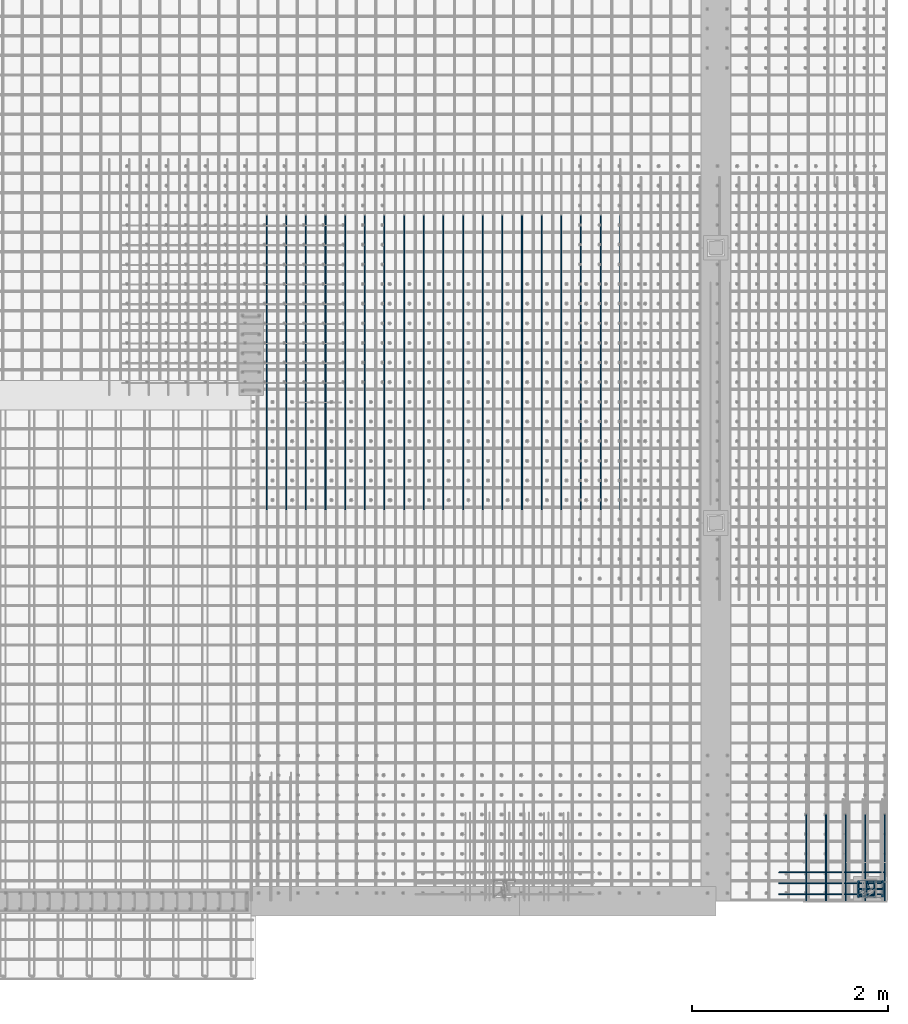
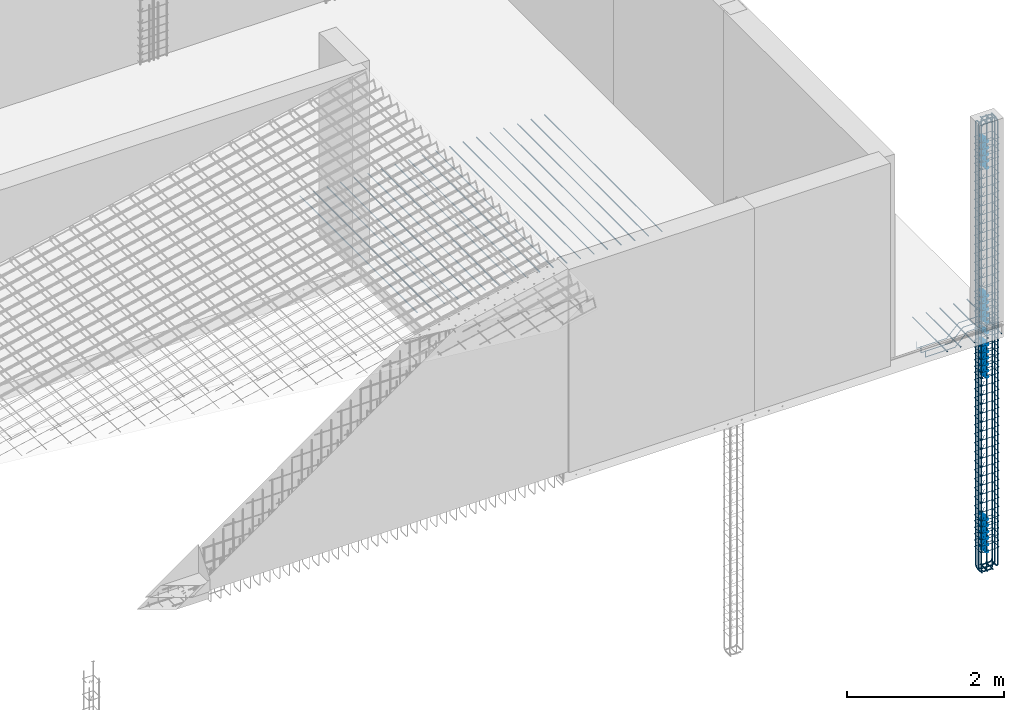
# One storey, part 10 of 17: 8 reinforcing bars.
"""IFC4 building model written with IfcOpenShell, lengths in metres."""

from ifc_helpers import new_model, entity, si_unit, frame, origin_with_axes, place, context, project, spatial, source, transform, mapped, element, save


model = new_model("IFC4")

# Units and contexts
model_context = context("Model", 3, precision=1e-05, world=origin_with_axes())
ifc_project = project(units=[si_unit("LENGTHUNIT", "METRE"), si_unit("AREAUNIT", "SQUARE_METRE"), si_unit("VOLUMEUNIT", "CUBIC_METRE"), si_unit("MASSUNIT", "GRAM", prefix="KILO"), si_unit("TIMEUNIT", "SECOND"), si_unit("PLANEANGLEUNIT", "RADIAN"), si_unit("SOLIDANGLEUNIT", "STERADIAN"), si_unit("THERMODYNAMICTEMPERATUREUNIT", "DEGREE_CELSIUS")], contexts=[model_context])

# Site, building, storey
placement_1 = place(None, origin_with_axes())
site = spatial("IfcSite", under=ifc_project, at=placement_1, Name="Italia", CompositionType="ELEMENT")
building = spatial("IfcBuilding", under=site, at=placement_1, Name="Abitazione", CompositionType="ELEMENT")
storey_placement = place(None, frame((0.0, 0.0, 3.569999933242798), z_axis=(0.0, 0.0, 1.0), x_axis=(1.0, 0.0, 0.0)))
storey = spatial("IfcBuildingStorey", under=building, at=storey_placement, Name="Storey 1", CompositionType="ELEMENT", Elevation=3.569999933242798)

# Reinforcing bars
shared_shape_1 = source(origin_with_axes(), model_context, "Body", "AdvancedSweptSolid", [
    entity("IfcSweptDiskSolid", entity("IfcIndexedPolyCurve", entity("IfcCartesianPointList3D", [[14.476, 0.844, -0.265], [14.364, 0.844, -0.265], [14.3449, 0.844, -0.261194], [14.3286, 0.844, -0.250355], [14.3178, 0.844, -0.234134], [14.314, 0.844, -0.215], [14.314, 0.844, 0.8175]]), [entity("IfcLineIndex", [1, 2]), entity("IfcLineIndex", [2, 3]), entity("IfcLineIndex", [3, 4]), entity("IfcLineIndex", [4, 5]), entity("IfcLineIndex", [5, 6]), entity("IfcLineIndex", [6, 7])], False), 0.01),
])
placement_2 = place(placement_1, origin_with_axes())
reinforcing_bar_1_placement = place(placement_2, origin_with_axes())
element("IfcReinforcingBar", 1, at=reinforcing_bar_1_placement, inside=storey, BarLength=1.22254, CrossSectionArea=0.00031416, NominalDiameter=0.02, context=model_context, shape_type="MappedRepresentation", body=[
    mapped(shared_shape_1, transform((15.3193, -13.47, 0.0), x_axis=(0.0, 1.0, 0.0), y_axis=(-1.0, 0.0, 0.0), z_axis=(0.0, 0.0, 1.0), scale=1.0)),
    mapped(shared_shape_1, transform((0.0, 0.0, 0.0), x_axis=(1.0, 0.0, 0.0), y_axis=(0.0, 1.0, 0.0), z_axis=(0.0, 0.0, 1.0), scale=1.0)),
    mapped(shared_shape_1, transform((13.6313, 15.3, 0.0), x_axis=(0.0, -1.0, 0.0), y_axis=(1.0, 0.0, 0.0), z_axis=(0.0, 0.0, 1.0), scale=1.0)),
    mapped(shared_shape_1, transform((28.87, 1.75901, 0.0), x_axis=(-1.0, 0.0, 0.0), y_axis=(0.0, -1.0, 0.0), z_axis=(0.0, 0.0, 1.0), scale=1.0)),
    mapped(shared_shape_1, transform((13.47, 15.3, 0.0), x_axis=(0.0, -1.0, 0.0), y_axis=(1.0, 0.0, 0.0), z_axis=(0.0, 0.0, 1.0), scale=1.0)),
    mapped(shared_shape_1, transform((13.5507, 15.3, 0.0), x_axis=(0.0, -1.0, 0.0), y_axis=(1.0, 0.0, 0.0), z_axis=(0.0, 0.0, 1.0), scale=1.0)),
    mapped(shared_shape_1, transform((28.87, 1.83001, 0.0), x_axis=(-1.0, 0.0, 0.0), y_axis=(0.0, -1.0, 0.0), z_axis=(0.0, 0.0, 1.0), scale=1.0)),
    mapped(shared_shape_1, transform((15.2387, -13.47, 0.0), x_axis=(0.0, 1.0, 0.0), y_axis=(-1.0, 0.0, 0.0), z_axis=(0.0, 0.0, 1.0), scale=1.0)),
    mapped(shared_shape_1, transform((0.0, 0.0709922, 0.0), x_axis=(1.0, 0.0, 0.0), y_axis=(0.0, 1.0, 0.0), z_axis=(0.0, 0.0, 1.0), scale=1.0)),
    mapped(shared_shape_1, transform((15.4, -13.47, 0.0), x_axis=(0.0, 1.0, 0.0), y_axis=(-1.0, 0.0, 0.0), z_axis=(0.0, 0.0, 1.0), scale=1.0)),
])
shared_shape_2 = source(origin_with_axes(), model_context, "Body", "AdvancedSweptSolid", [
    entity("IfcSweptDiskSolid", entity("IfcIndexedPolyCurve", entity("IfcCartesianPointList3D", [[14.314, 0.844, 0.0], [14.314, 0.844, 4.37]]), [entity("IfcLineIndex", [1, 2])], False), 0.01),
])
reinforcing_bar_2_placement = place(placement_2, origin_with_axes())
element("IfcReinforcingBar", 2, at=reinforcing_bar_2_placement, inside=storey, BarLength=4.37, CrossSectionArea=0.00031416, NominalDiameter=0.02, context=model_context, shape_type="MappedRepresentation", body=[
    mapped(shared_shape_2, transform((0.161341, 0.142, 0.0), x_axis=(1.0, 0.0, 0.0), y_axis=(0.0, 1.0, 0.0), z_axis=(0.0, 0.0, 1.0), scale=1.0)),
    mapped(shared_shape_2, transform((0.0806713, 0.142, 0.0), x_axis=(1.0, 0.0, 0.0), y_axis=(0.0, 1.0, 0.0), z_axis=(0.0, 0.0, 1.0), scale=1.0)),
    mapped(shared_shape_2, transform((0.161331, 0.0, 0.0), x_axis=(1.0, 0.0, 0.0), y_axis=(0.0, 1.0, 0.0), z_axis=(0.0, 0.0, 1.0), scale=1.0)),
    mapped(shared_shape_2, transform((0.242002, 0.071, 0.0), x_axis=(1.0, 0.0, 0.0), y_axis=(0.0, 1.0, 0.0), z_axis=(0.0, 0.0, 1.0), scale=1.0)),
    mapped(shared_shape_2, transform((0.0, 0.0, 0.0), x_axis=(1.0, 0.0, 0.0), y_axis=(0.0, 1.0, 0.0), z_axis=(0.0, 0.0, 1.0), scale=1.0)),
    mapped(shared_shape_2, transform((0.0806618, 0.0, 0.0), x_axis=(1.0, 0.0, 0.0), y_axis=(0.0, 1.0, 0.0), z_axis=(0.0, 0.0, 1.0), scale=1.0)),
    mapped(shared_shape_2, transform((0.242002, 0.142, 0.0), x_axis=(1.0, 0.0, 0.0), y_axis=(0.0, 1.0, 0.0), z_axis=(0.0, 0.0, 1.0), scale=1.0)),
    mapped(shared_shape_2, transform((0.0, 0.142, 0.0), x_axis=(1.0, 0.0, 0.0), y_axis=(0.0, 1.0, 0.0), z_axis=(0.0, 0.0, 1.0), scale=1.0)),
    mapped(shared_shape_2, transform((0.0, 0.071, 0.0), x_axis=(1.0, 0.0, 0.0), y_axis=(0.0, 1.0, 0.0), z_axis=(0.0, 0.0, 1.0), scale=1.0)),
    mapped(shared_shape_2, transform((0.242002, 0.0, 0.0), x_axis=(1.0, 0.0, 0.0), y_axis=(0.0, 1.0, 0.0), z_axis=(0.0, 0.0, 1.0), scale=1.0)),
])
shared_shape_3 = source(origin_with_axes(), model_context, "Body", "AdvancedSweptSolid", [
    entity("IfcSweptDiskSolid", entity("IfcIndexedPolyCurve", entity("IfcCartesianPointList3D", [[14.314, 0.844, 3.57], [14.314, 0.844, 6.645], [14.3178, 0.844, 6.66413], [14.3286, 0.844, 6.68036], [14.3449, 0.844, 6.69119], [14.364, 0.844, 6.695], [14.476, 0.844, 6.695]]), [entity("IfcLineIndex", [1, 2]), entity("IfcLineIndex", [2, 3]), entity("IfcLineIndex", [3, 4]), entity("IfcLineIndex", [4, 5]), entity("IfcLineIndex", [5, 6]), entity("IfcLineIndex", [6, 7])], False), 0.01),
])
reinforcing_bar_3_placement = place(placement_2, origin_with_axes())
element("IfcReinforcingBar", 3, at=reinforcing_bar_3_placement, inside=storey, BarLength=3.26504, CrossSectionArea=0.00031416, NominalDiameter=0.02, context=model_context, shape_type="MappedRepresentation", body=[
    mapped(shared_shape_3, transform((13.6313, 15.3, 0.0), x_axis=(0.0, -1.0, 0.0), y_axis=(1.0, 0.0, 0.0), z_axis=(0.0, 0.0, 1.0), scale=1.0)),
    mapped(shared_shape_3, transform((13.5507, 15.3, 0.0), x_axis=(0.0, -1.0, 0.0), y_axis=(1.0, 0.0, 0.0), z_axis=(0.0, 0.0, 1.0), scale=1.0)),
    mapped(shared_shape_3, transform((15.3193, -13.47, 0.0), x_axis=(0.0, 1.0, 0.0), y_axis=(-1.0, 0.0, 0.0), z_axis=(0.0, 0.0, 1.0), scale=1.0)),
    mapped(shared_shape_3, transform((28.87, 1.75901, 0.0), x_axis=(-1.0, 0.0, 0.0), y_axis=(0.0, -1.0, 0.0), z_axis=(0.0, 0.0, 1.0), scale=1.0)),
    mapped(shared_shape_3, transform((0.0, 0.0, 0.0), x_axis=(1.0, 0.0, 0.0), y_axis=(0.0, 1.0, 0.0), z_axis=(0.0, 0.0, 1.0), scale=1.0)),
    mapped(shared_shape_3, transform((15.2387, -13.47, 0.0), x_axis=(0.0, 1.0, 0.0), y_axis=(-1.0, 0.0, 0.0), z_axis=(0.0, 0.0, 1.0), scale=1.0)),
    mapped(shared_shape_3, transform((28.87, 1.83001, 0.0), x_axis=(-1.0, 0.0, 0.0), y_axis=(0.0, -1.0, 0.0), z_axis=(0.0, 0.0, 1.0), scale=1.0)),
    mapped(shared_shape_3, transform((13.47, 15.3, 0.0), x_axis=(0.0, -1.0, 0.0), y_axis=(1.0, 0.0, 0.0), z_axis=(0.0, 0.0, 1.0), scale=1.0)),
    mapped(shared_shape_3, transform((0.0, 0.0709947, 0.0), x_axis=(1.0, 0.0, 0.0), y_axis=(0.0, 1.0, 0.0), z_axis=(0.0, 0.0, 1.0), scale=1.0)),
    mapped(shared_shape_3, transform((15.4, -13.47, 0.0), x_axis=(0.0, 1.0, 0.0), y_axis=(-1.0, 0.0, 0.0), z_axis=(0.0, 0.0, 1.0), scale=1.0)),
])
shared_shape_4 = source(origin_with_axes(), model_context, "Body", "AdvancedSweptSolid", [
    entity("IfcSweptDiskSolid", entity("IfcIndexedPolyCurve", entity("IfcCartesianPointList3D", [[14.425, 0.905698, 0.031], [14.4076, 0.993999, 0.031], [14.4061, 0.997606, 0.031], [14.4034, 1.00037, 0.031], [14.3998, 1.00187, 0.031], [14.3959, 1.00188, 0.031], [14.388, 1.00033, 0.031], [14.3844, 0.998842, 0.031], [14.3817, 0.996088, 0.031], [14.3802, 0.992486, 0.031], [14.3802, 0.988584, 0.031], [14.4092, 0.841416, 0.031], [14.4092, 0.837514, 0.031], [14.4077, 0.833912, 0.031], [14.4049, 0.831158, 0.031], [14.4013, 0.829671, 0.031], [14.3934, 0.828124, 0.031], [14.3895, 0.82813, 0.031], [14.3859, 0.82963, 0.031], [14.3832, 0.832394, 0.031], [14.3817, 0.836001, 0.031], [14.3643, 0.924302, 0.031]]), [entity("IfcLineIndex", [1, 2]), entity("IfcLineIndex", [2, 3]), entity("IfcLineIndex", [3, 4]), entity("IfcLineIndex", [4, 5]), entity("IfcLineIndex", [5, 6]), entity("IfcLineIndex", [6, 7]), entity("IfcLineIndex", [7, 8]), entity("IfcLineIndex", [8, 9]), entity("IfcLineIndex", [9, 10]), entity("IfcLineIndex", [10, 11]), entity("IfcLineIndex", [11, 12]), entity("IfcLineIndex", [12, 13]), entity("IfcLineIndex", [13, 14]), entity("IfcLineIndex", [14, 15]), entity("IfcLineIndex", [15, 16]), entity("IfcLineIndex", [16, 17]), entity("IfcLineIndex", [17, 18]), entity("IfcLineIndex", [18, 19]), entity("IfcLineIndex", [19, 20]), entity("IfcLineIndex", [20, 21]), entity("IfcLineIndex", [21, 22])], False), 0.004),
])
reinforcing_bar_4_placement = place(placement_2, origin_with_axes())
element("IfcReinforcingBar", 4, at=reinforcing_bar_4_placement, inside=storey, BarLength=0.408429, CrossSectionArea=5.0265e-05, NominalDiameter=0.008, context=model_context, shape_type="MappedRepresentation", body=[
    mapped(shared_shape_4, transform((0.0, 0.0, 3.01), x_axis=(1.0, 0.0, 0.0), y_axis=(0.0, 1.0, 0.0), z_axis=(0.0, 0.0, 1.0), scale=1.0)),
    mapped(shared_shape_4, transform((0.0, 0.0, 3.11), x_axis=(1.0, 0.0, 0.0), y_axis=(0.0, 1.0, 0.0), z_axis=(0.0, 0.0, 1.0), scale=1.0)),
    mapped(shared_shape_4, transform((0.0, 0.0, 0.0), x_axis=(1.0, 0.0, 0.0), y_axis=(0.0, 1.0, 0.0), z_axis=(0.0, 0.0, 1.0), scale=1.0)),
    mapped(shared_shape_4, transform((0.0, 0.0, 2.81), x_axis=(1.0, 0.0, 0.0), y_axis=(0.0, 1.0, 0.0), z_axis=(0.0, 0.0, 1.0), scale=1.0)),
    mapped(shared_shape_4, transform((0.0, 0.0, 2.91), x_axis=(1.0, 0.0, 0.0), y_axis=(0.0, 1.0, 0.0), z_axis=(0.0, 0.0, 1.0), scale=1.0)),
    mapped(shared_shape_4, transform((0.0, 0.0, 0.408), x_axis=(1.0, 0.0, 0.0), y_axis=(0.0, 1.0, 0.0), z_axis=(0.0, 0.0, 1.0), scale=1.0)),
    mapped(shared_shape_4, transform((0.0, 0.0, 0.5), x_axis=(1.0, 0.0, 0.0), y_axis=(0.0, 1.0, 0.0), z_axis=(0.0, 0.0, 1.0), scale=1.0)),
    mapped(shared_shape_4, transform((0.0, 0.0, 2.718), x_axis=(1.0, 0.0, 0.0), y_axis=(0.0, 1.0, 0.0), z_axis=(0.0, 0.0, 1.0), scale=1.0)),
    mapped(shared_shape_4, transform((0.0, 0.0, 0.208), x_axis=(1.0, 0.0, 0.0), y_axis=(0.0, 1.0, 0.0), z_axis=(0.0, 0.0, 1.0), scale=1.0)),
    mapped(shared_shape_4, transform((0.0, 0.0, 0.308), x_axis=(1.0, 0.0, 0.0), y_axis=(0.0, 1.0, 0.0), z_axis=(0.0, 0.0, 1.0), scale=1.0)),
    mapped(shared_shape_4, transform((0.0, 0.0, 6.278), x_axis=(1.0, 0.0, 0.0), y_axis=(0.0, 1.0, 0.0), z_axis=(0.0, 0.0, 1.0), scale=1.0)),
    mapped(shared_shape_4, transform((0.0, 0.0, 3.218), x_axis=(1.0, 0.0, 0.0), y_axis=(0.0, 1.0, 0.0), z_axis=(0.0, 0.0, 1.0), scale=1.0)),
    mapped(shared_shape_4, transform((0.0, 0.0, 0.108), x_axis=(1.0, 0.0, 0.0), y_axis=(0.0, 1.0, 0.0), z_axis=(0.0, 0.0, 1.0), scale=1.0)),
    mapped(shared_shape_4, transform((0.0, 0.0, 6.078), x_axis=(1.0, 0.0, 0.0), y_axis=(0.0, 1.0, 0.0), z_axis=(0.0, 0.0, 1.0), scale=1.0)),
    mapped(shared_shape_4, transform((0.0, 0.0, 6.178), x_axis=(1.0, 0.0, 0.0), y_axis=(0.0, 1.0, 0.0), z_axis=(0.0, 0.0, 1.0), scale=1.0)),
    mapped(shared_shape_4, transform((0.0, 0.0, 3.878), x_axis=(1.0, 0.0, 0.0), y_axis=(0.0, 1.0, 0.0), z_axis=(0.0, 0.0, 1.0), scale=1.0)),
    mapped(shared_shape_4, transform((0.0, 0.0, 3.978), x_axis=(1.0, 0.0, 0.0), y_axis=(0.0, 1.0, 0.0), z_axis=(0.0, 0.0, 1.0), scale=1.0)),
    mapped(shared_shape_4, transform((0.0, 0.0, 5.97), x_axis=(1.0, 0.0, 0.0), y_axis=(0.0, 1.0, 0.0), z_axis=(0.0, 0.0, 1.0), scale=1.0)),
    mapped(shared_shape_4, transform((0.0, 0.0, 3.67), x_axis=(1.0, 0.0, 0.0), y_axis=(0.0, 1.0, 0.0), z_axis=(0.0, 0.0, 1.0), scale=1.0)),
    mapped(shared_shape_4, transform((0.0, 0.0, 3.77), x_axis=(1.0, 0.0, 0.0), y_axis=(0.0, 1.0, 0.0), z_axis=(0.0, 0.0, 1.0), scale=1.0)),
    mapped(shared_shape_4, transform((0.0, 0.0, 6.378), x_axis=(1.0, 0.0, 0.0), y_axis=(0.0, 1.0, 0.0), z_axis=(0.0, 0.0, 1.0), scale=1.0)),
    mapped(shared_shape_4, transform((0.0, 0.0, 3.406), x_axis=(1.0, 0.0, 0.0), y_axis=(0.0, 1.0, 0.0), z_axis=(0.0, 0.0, 1.0), scale=1.0)),
    mapped(shared_shape_4, transform((0.0, 0.0, 3.57), x_axis=(1.0, 0.0, 0.0), y_axis=(0.0, 1.0, 0.0), z_axis=(0.0, 0.0, 1.0), scale=1.0)),
])
shared_shape_5 = source(origin_with_axes(), model_context, "Body", "AdvancedSweptSolid", [
    entity("IfcSweptDiskSolid", entity("IfcIndexedPolyCurve", entity("IfcCartesianPointList3D", [[14.3917, 0.900711, 0.051], [14.3239, 0.832929, 0.05014], [14.3169, 0.83, 0.0500714], [14.31, 0.83, 0.0500099], [14.3062, 0.830761, 0.0499749], [14.3029, 0.832929, 0.0499398], [14.3008, 0.836173, 0.0499048], [14.3, 0.84, 0.0498698], [14.3, 0.99, 0.0485242], [14.3008, 0.993827, 0.0484892], [14.3029, 0.997071, 0.0484542], [14.3062, 0.999239, 0.0484192], [14.31, 1.0, 0.0483842], [14.56, 1.0, 0.0461414], [14.5638, 0.999239, 0.0461064], [14.5671, 0.997071, 0.0460714], [14.5692, 0.993827, 0.0460364], [14.57, 0.99, 0.0460014], [14.57, 0.84, 0.0446557], [14.5692, 0.836173, 0.0446207], [14.5671, 0.832929, 0.0445857], [14.5638, 0.830761, 0.0445507], [14.56, 0.83, 0.0445157], [14.31, 0.83, 0.0422729], [14.3062, 0.830761, 0.0422379], [14.3029, 0.832929, 0.0422029], [14.3008, 0.836173, 0.0421679], [14.3, 0.84, 0.0421329], [14.3, 0.846858, 0.0420714], [14.3029, 0.853929, 0.0420027], [14.3707, 0.921711, 0.0411428]]), [entity("IfcLineIndex", [1, 2]), entity("IfcLineIndex", [2, 3]), entity("IfcLineIndex", [3, 4]), entity("IfcLineIndex", [4, 5]), entity("IfcLineIndex", [5, 6]), entity("IfcLineIndex", [6, 7]), entity("IfcLineIndex", [7, 8]), entity("IfcLineIndex", [8, 9]), entity("IfcLineIndex", [9, 10]), entity("IfcLineIndex", [10, 11]), entity("IfcLineIndex", [11, 12]), entity("IfcLineIndex", [12, 13]), entity("IfcLineIndex", [13, 14]), entity("IfcLineIndex", [14, 15]), entity("IfcLineIndex", [15, 16]), entity("IfcLineIndex", [16, 17]), entity("IfcLineIndex", [17, 18]), entity("IfcLineIndex", [18, 19]), entity("IfcLineIndex", [19, 20]), entity("IfcLineIndex", [20, 21]), entity("IfcLineIndex", [21, 22]), entity("IfcLineIndex", [22, 23]), entity("IfcLineIndex", [23, 24]), entity("IfcLineIndex", [24, 25]), entity("IfcLineIndex", [25, 26]), entity("IfcLineIndex", [26, 27]), entity("IfcLineIndex", [27, 28]), entity("IfcLineIndex", [28, 29]), entity("IfcLineIndex", [29, 30]), entity("IfcLineIndex", [30, 31])], False), 0.004),
])
reinforcing_bar_5_placement = place(placement_2, origin_with_axes())
element("IfcReinforcingBar", 5, at=reinforcing_bar_5_placement, inside=storey, BarLength=1.09882, CrossSectionArea=5.0265e-05, NominalDiameter=0.008, context=model_context, shape_type="MappedRepresentation", body=[
    mapped(shared_shape_5, transform((0.0, 0.0, 3.39799), x_axis=(1.0, 0.0, 0.0), y_axis=(0.0, 1.0, 0.0), z_axis=(0.0, 0.0, 1.0), scale=1.0)),
    mapped(shared_shape_5, transform((0.0, 0.0, 3.20999), x_axis=(1.0, 0.0, 0.0), y_axis=(0.0, 1.0, 0.0), z_axis=(0.0, 0.0, 1.0), scale=1.0)),
    mapped(shared_shape_5, transform((0.0, 0.0, 6.37002), x_axis=(1.0, 0.0, 0.0), y_axis=(0.0, 1.0, 0.0), z_axis=(0.0, 0.0, 1.0), scale=1.0)),
    mapped(shared_shape_5, transform((0.0, 0.0, 4.55802), x_axis=(1.0, 0.0, 0.0), y_axis=(0.0, 1.0, 0.0), z_axis=(0.0, 0.0, 1.0), scale=1.0)),
    mapped(shared_shape_5, transform((0.0, 0.0, 4.41802), x_axis=(1.0, 0.0, 0.0), y_axis=(0.0, 1.0, 0.0), z_axis=(0.0, 0.0, 1.0), scale=1.0)),
    mapped(shared_shape_5, transform((0.0, 0.0, 4.27802), x_axis=(1.0, 0.0, 0.0), y_axis=(0.0, 1.0, 0.0), z_axis=(0.0, 0.0, 1.0), scale=1.0)),
    mapped(shared_shape_5, transform((0.0, 0.0, 4.13802), x_axis=(1.0, 0.0, 0.0), y_axis=(0.0, 1.0, 0.0), z_axis=(0.0, 0.0, 1.0), scale=1.0)),
    mapped(shared_shape_5, transform((0.0, 0.0, 3.97002), x_axis=(1.0, 0.0, 0.0), y_axis=(0.0, 1.0, 0.0), z_axis=(0.0, 0.0, 1.0), scale=1.0)),
    mapped(shared_shape_5, transform((0.0, 0.0, 3.86999), x_axis=(1.0, 0.0, 0.0), y_axis=(0.0, 1.0, 0.0), z_axis=(0.0, 0.0, 1.0), scale=1.0)),
    mapped(shared_shape_5, transform((0.0, 0.0, 3.76199), x_axis=(1.0, 0.0, 0.0), y_axis=(0.0, 1.0, 0.0), z_axis=(0.0, 0.0, 1.0), scale=1.0)),
    mapped(shared_shape_5, transform((0.0, 0.0, 3.66199), x_axis=(1.0, 0.0, 0.0), y_axis=(0.0, 1.0, 0.0), z_axis=(0.0, 0.0, 1.0), scale=1.0)),
    mapped(shared_shape_5, transform((0.0, 0.0, 3.56199), x_axis=(1.0, 0.0, 0.0), y_axis=(0.0, 1.0, 0.0), z_axis=(0.0, 0.0, 1.0), scale=1.0)),
    mapped(shared_shape_5, transform((0.0, 0.0, 4.97802), x_axis=(1.0, 0.0, 0.0), y_axis=(0.0, 1.0, 0.0), z_axis=(0.0, 0.0, 1.0), scale=1.0)),
    mapped(shared_shape_5, transform((0.0, 0.0, 4.83802), x_axis=(1.0, 0.0, 0.0), y_axis=(0.0, 1.0, 0.0), z_axis=(0.0, 0.0, 1.0), scale=1.0)),
    mapped(shared_shape_5, transform((0.0, 0.0, 4.69802), x_axis=(1.0, 0.0, 0.0), y_axis=(0.0, 1.0, 0.0), z_axis=(0.0, 0.0, 1.0), scale=1.0)),
    mapped(shared_shape_5, transform((0.0, 0.0, 6.17002), x_axis=(1.0, 0.0, 0.0), y_axis=(0.0, 1.0, 0.0), z_axis=(0.0, 0.0, 1.0), scale=1.0)),
    mapped(shared_shape_5, transform((0.0, 0.0, 6.07002), x_axis=(1.0, 0.0, 0.0), y_axis=(0.0, 1.0, 0.0), z_axis=(0.0, 0.0, 1.0), scale=1.0)),
    mapped(shared_shape_5, transform((0.0, 0.0, 5.96202), x_axis=(1.0, 0.0, 0.0), y_axis=(0.0, 1.0, 0.0), z_axis=(0.0, 0.0, 1.0), scale=1.0)),
    mapped(shared_shape_5, transform((0.0, 0.0, 5.81802), x_axis=(1.0, 0.0, 0.0), y_axis=(0.0, 1.0, 0.0), z_axis=(0.0, 0.0, 1.0), scale=1.0)),
    mapped(shared_shape_5, transform((0.0, 0.0, 5.67802), x_axis=(1.0, 0.0, 0.0), y_axis=(0.0, 1.0, 0.0), z_axis=(0.0, 0.0, 1.0), scale=1.0)),
    mapped(shared_shape_5, transform((0.0, 0.0, 5.53802), x_axis=(1.0, 0.0, 0.0), y_axis=(0.0, 1.0, 0.0), z_axis=(0.0, 0.0, 1.0), scale=1.0)),
    mapped(shared_shape_5, transform((0.0, 0.0, 5.39802), x_axis=(1.0, 0.0, 0.0), y_axis=(0.0, 1.0, 0.0), z_axis=(0.0, 0.0, 1.0), scale=1.0)),
    mapped(shared_shape_5, transform((0.0, 0.0, 5.25802), x_axis=(1.0, 0.0, 0.0), y_axis=(0.0, 1.0, 0.0), z_axis=(0.0, 0.0, 1.0), scale=1.0)),
    mapped(shared_shape_5, transform((0.0, 0.0, 5.11802), x_axis=(1.0, 0.0, 0.0), y_axis=(0.0, 1.0, 0.0), z_axis=(0.0, 0.0, 1.0), scale=1.0)),
    mapped(shared_shape_5, transform((0.0, 0.0, 0.0999863), x_axis=(1.0, 0.0, 0.0), y_axis=(0.0, 1.0, 0.0), z_axis=(0.0, 0.0, 1.0), scale=1.0)),
    mapped(shared_shape_5, transform((0.0, 0.0, 3.10199), x_axis=(1.0, 0.0, 0.0), y_axis=(0.0, 1.0, 0.0), z_axis=(0.0, 0.0, 1.0), scale=1.0)),
    mapped(shared_shape_5, transform((0.0, 0.0, 6.27002), x_axis=(1.0, 0.0, 0.0), y_axis=(0.0, 1.0, 0.0), z_axis=(0.0, 0.0, 1.0), scale=1.0)),
    mapped(shared_shape_5, transform((0.0, 0.0, 1.19298), x_axis=(1.0, 0.0, 0.0), y_axis=(0.0, 1.0, 0.0), z_axis=(0.0, 0.0, 1.0), scale=1.0)),
    mapped(shared_shape_5, transform((0.0, 0.0, 1.05298), x_axis=(1.0, 0.0, 0.0), y_axis=(0.0, 1.0, 0.0), z_axis=(0.0, 0.0, 1.0), scale=1.0)),
    mapped(shared_shape_5, transform((0.0, 0.0, 0.912992), x_axis=(1.0, 0.0, 0.0), y_axis=(0.0, 1.0, 0.0), z_axis=(0.0, 0.0, 1.0), scale=1.0)),
    mapped(shared_shape_5, transform((0.0, 0.0, 0.772992), x_axis=(1.0, 0.0, 0.0), y_axis=(0.0, 1.0, 0.0), z_axis=(0.0, 0.0, 1.0), scale=1.0)),
    mapped(shared_shape_5, transform((0.0, 0.0, 0.632992), x_axis=(1.0, 0.0, 0.0), y_axis=(0.0, 1.0, 0.0), z_axis=(0.0, 0.0, 1.0), scale=1.0)),
    mapped(shared_shape_5, transform((0.0, 0.0, 0.49199), x_axis=(1.0, 0.0, 0.0), y_axis=(0.0, 1.0, 0.0), z_axis=(0.0, 0.0, 1.0), scale=1.0)),
    mapped(shared_shape_5, transform((0.0, 0.0, 0.399986), x_axis=(1.0, 0.0, 0.0), y_axis=(0.0, 1.0, 0.0), z_axis=(0.0, 0.0, 1.0), scale=1.0)),
    mapped(shared_shape_5, transform((0.0, 0.0, 0.299986), x_axis=(1.0, 0.0, 0.0), y_axis=(0.0, 1.0, 0.0), z_axis=(0.0, 0.0, 1.0), scale=1.0)),
    mapped(shared_shape_5, transform((0.0, 0.0, 0.19999), x_axis=(1.0, 0.0, 0.0), y_axis=(0.0, 1.0, 0.0), z_axis=(0.0, 0.0, 1.0), scale=1.0)),
    mapped(shared_shape_5, transform((0.0, 0.0, 1.61298), x_axis=(1.0, 0.0, 0.0), y_axis=(0.0, 1.0, 0.0), z_axis=(0.0, 0.0, 1.0), scale=1.0)),
    mapped(shared_shape_5, transform((0.0, 0.0, 1.47298), x_axis=(1.0, 0.0, 0.0), y_axis=(0.0, 1.0, 0.0), z_axis=(0.0, 0.0, 1.0), scale=1.0)),
    mapped(shared_shape_5, transform((0.0, 0.0, 1.33298), x_axis=(1.0, 0.0, 0.0), y_axis=(0.0, 1.0, 0.0), z_axis=(0.0, 0.0, 1.0), scale=1.0)),
    mapped(shared_shape_5, transform((0.0, 0.0, 2.80199), x_axis=(1.0, 0.0, 0.0), y_axis=(0.0, 1.0, 0.0), z_axis=(0.0, 0.0, 1.0), scale=1.0)),
    mapped(shared_shape_5, transform((0.0, 0.0, 2.70999), x_axis=(1.0, 0.0, 0.0), y_axis=(0.0, 1.0, 0.0), z_axis=(0.0, 0.0, 1.0), scale=1.0)),
    mapped(shared_shape_5, transform((0.0, 0.0, 2.59299), x_axis=(1.0, 0.0, 0.0), y_axis=(0.0, 1.0, 0.0), z_axis=(0.0, 0.0, 1.0), scale=1.0)),
    mapped(shared_shape_5, transform((0.0, 0.0, 2.45299), x_axis=(1.0, 0.0, 0.0), y_axis=(0.0, 1.0, 0.0), z_axis=(0.0, 0.0, 1.0), scale=1.0)),
    mapped(shared_shape_5, transform((0.0, 0.0, 2.31299), x_axis=(1.0, 0.0, 0.0), y_axis=(0.0, 1.0, 0.0), z_axis=(0.0, 0.0, 1.0), scale=1.0)),
    mapped(shared_shape_5, transform((0.0, 0.0, 2.17299), x_axis=(1.0, 0.0, 0.0), y_axis=(0.0, 1.0, 0.0), z_axis=(0.0, 0.0, 1.0), scale=1.0)),
    mapped(shared_shape_5, transform((0.0, 0.0, 2.03299), x_axis=(1.0, 0.0, 0.0), y_axis=(0.0, 1.0, 0.0), z_axis=(0.0, 0.0, 1.0), scale=1.0)),
    mapped(shared_shape_5, transform((0.0, 0.0, 1.89298), x_axis=(1.0, 0.0, 0.0), y_axis=(0.0, 1.0, 0.0), z_axis=(0.0, 0.0, 1.0), scale=1.0)),
    mapped(shared_shape_5, transform((0.0, 0.0, 1.75298), x_axis=(1.0, 0.0, 0.0), y_axis=(0.0, 1.0, 0.0), z_axis=(0.0, 0.0, 1.0), scale=1.0)),
    mapped(shared_shape_5, transform((0.0, 0.0, 0.0), x_axis=(1.0, 0.0, 0.0), y_axis=(0.0, 1.0, 0.0), z_axis=(0.0, 0.0, 1.0), scale=1.0)),
    mapped(shared_shape_5, transform((0.0, 0.0, 3.00199), x_axis=(1.0, 0.0, 0.0), y_axis=(0.0, 1.0, 0.0), z_axis=(0.0, 0.0, 1.0), scale=1.0)),
    mapped(shared_shape_5, transform((0.0, 0.0, 2.90199), x_axis=(1.0, 0.0, 0.0), y_axis=(0.0, 1.0, 0.0), z_axis=(0.0, 0.0, 1.0), scale=1.0)),
])
shared_shape_6 = source(origin_with_axes(), model_context, "Body", "AdvancedSweptSolid", [
    entity("IfcSweptDiskSolid", entity("IfcIndexedPolyCurve", entity("IfcCartesianPointList3D", [[8.28682, 4.77426, 3.5], [8.28682, 7.77017, 3.5]]), [entity("IfcLineIndex", [1, 2])], False), 0.008),
])
reinforcing_bar_6_placement = place(placement_2, origin_with_axes())
element("IfcReinforcingBar", 6, at=reinforcing_bar_6_placement, inside=storey, BarLength=2.99591, CrossSectionArea=0.00020106, NominalDiameter=0.016, context=model_context, shape_type="MappedRepresentation", body=[
    mapped(shared_shape_6, transform((1.4, 0.0, 0.0), x_axis=(1.0, 0.0, 0.0), y_axis=(0.0, 1.0, 0.0), z_axis=(0.0, 0.0, 1.0), scale=1.0)),
    mapped(shared_shape_6, transform((1.6, 0.0, 0.0), x_axis=(1.0, 0.0, 0.0), y_axis=(0.0, 1.0, 0.0), z_axis=(0.0, 0.0, 1.0), scale=1.0)),
    mapped(shared_shape_6, transform((0.0, 0.0, 0.0), x_axis=(1.0, 0.0, 0.0), y_axis=(0.0, 1.0, 0.0), z_axis=(0.0, 0.0, 1.0), scale=1.0)),
    mapped(shared_shape_6, transform((1.2, 0.0, 0.0), x_axis=(1.0, 0.0, 0.0), y_axis=(0.0, 1.0, 0.0), z_axis=(0.0, 0.0, 1.0), scale=1.0)),
    mapped(shared_shape_6, transform((0.599999, 0.0, 0.0), x_axis=(1.0, 0.0, 0.0), y_axis=(0.0, 1.0, 0.0), z_axis=(0.0, 0.0, 1.0), scale=1.0)),
    mapped(shared_shape_6, transform((0.799999, 0.0, 0.0), x_axis=(1.0, 0.0, 0.0), y_axis=(0.0, 1.0, 0.0), z_axis=(0.0, 0.0, 1.0), scale=1.0)),
    mapped(shared_shape_6, transform((0.999999, 0.0, 0.0), x_axis=(1.0, 0.0, 0.0), y_axis=(0.0, 1.0, 0.0), z_axis=(0.0, 0.0, 1.0), scale=1.0)),
    mapped(shared_shape_6, transform((0.4, 0.0, 0.0), x_axis=(1.0, 0.0, 0.0), y_axis=(0.0, 1.0, 0.0), z_axis=(0.0, 0.0, 1.0), scale=1.0)),
    mapped(shared_shape_6, transform((3.4, 0.0, 0.0), x_axis=(1.0, 0.0, 0.0), y_axis=(0.0, 1.0, 0.0), z_axis=(0.0, 0.0, 1.0), scale=1.0)),
    mapped(shared_shape_6, transform((1.8, 0.0, 0.0), x_axis=(1.0, 0.0, 0.0), y_axis=(0.0, 1.0, 0.0), z_axis=(0.0, 0.0, 1.0), scale=1.0)),
    mapped(shared_shape_6, transform((0.2, 0.0, 0.0), x_axis=(1.0, 0.0, 0.0), y_axis=(0.0, 1.0, 0.0), z_axis=(0.0, 0.0, 1.0), scale=1.0)),
    mapped(shared_shape_6, transform((3.2, 0.0, 0.0), x_axis=(1.0, 0.0, 0.0), y_axis=(0.0, 1.0, 0.0), z_axis=(0.0, 0.0, 1.0), scale=1.0)),
    mapped(shared_shape_6, transform((2.6, 0.0, 0.0), x_axis=(1.0, 0.0, 0.0), y_axis=(0.0, 1.0, 0.0), z_axis=(0.0, 0.0, 1.0), scale=1.0)),
    mapped(shared_shape_6, transform((2.8, 0.0, 0.0), x_axis=(1.0, 0.0, 0.0), y_axis=(0.0, 1.0, 0.0), z_axis=(0.0, 0.0, 1.0), scale=1.0)),
    mapped(shared_shape_6, transform((3.0, 0.0, 0.0), x_axis=(1.0, 0.0, 0.0), y_axis=(0.0, 1.0, 0.0), z_axis=(0.0, 0.0, 1.0), scale=1.0)),
    mapped(shared_shape_6, transform((2.4, 0.0, 0.0), x_axis=(1.0, 0.0, 0.0), y_axis=(0.0, 1.0, 0.0), z_axis=(0.0, 0.0, 1.0), scale=1.0)),
    mapped(shared_shape_6, transform((3.6, 0.0, 0.0), x_axis=(1.0, 0.0, 0.0), y_axis=(0.0, 1.0, 0.0), z_axis=(0.0, 0.0, 1.0), scale=1.0)),
    mapped(shared_shape_6, transform((2.0, 0.0, 0.0), x_axis=(1.0, 0.0, 0.0), y_axis=(0.0, 1.0, 0.0), z_axis=(0.0, 0.0, 1.0), scale=1.0)),
    mapped(shared_shape_6, transform((2.2, 0.0, 0.0), x_axis=(1.0, 0.0, 0.0), y_axis=(0.0, 1.0, 0.0), z_axis=(0.0, 0.0, 1.0), scale=1.0)),
])
shared_shape_7 = source(origin_with_axes(), model_context, "Body", "AdvancedSweptSolid", [
    entity("IfcSweptDiskSolid", entity("IfcIndexedPolyCurve", entity("IfcCartesianPointList3D", [[13.7817, 0.79, 3.386], [13.7817, 1.67122, 3.386]]), [entity("IfcLineIndex", [1, 2])], False), 0.008),
])
reinforcing_bar_7_placement = place(placement_2, origin_with_axes())
element("IfcReinforcingBar", 7, at=reinforcing_bar_7_placement, inside=storey, BarLength=0.881223, CrossSectionArea=0.00020106, NominalDiameter=0.016, context=model_context, shape_type="MappedRepresentation", body=[
    mapped(shared_shape_7, transform((0.0, 0.0, 0.0), x_axis=(1.0, 0.0, 0.0), y_axis=(0.0, 1.0, 0.0), z_axis=(0.0, 0.0, 1.0), scale=1.0)),
    mapped(shared_shape_7, transform((0.199999, 0.0, 0.0), x_axis=(1.0, 0.0, 0.0), y_axis=(0.0, 1.0, 0.0), z_axis=(0.0, 0.0, 1.0), scale=1.0)),
    mapped(shared_shape_7, transform((0.399999, 0.0, 0.0), x_axis=(1.0, 0.0, 0.0), y_axis=(0.0, 1.0, 0.0), z_axis=(0.0, 0.0, 1.0), scale=1.0)),
    mapped(shared_shape_7, transform((0.599998, 0.0, 0.0), x_axis=(1.0, 0.0, 0.0), y_axis=(0.0, 1.0, 0.0), z_axis=(0.0, 0.0, 1.0), scale=1.0)),
    mapped(shared_shape_7, transform((0.799998, 0.0, 0.0), x_axis=(1.0, 0.0, 0.0), y_axis=(0.0, 1.0, 0.0), z_axis=(0.0, 0.0, 1.0), scale=1.0)),
])
shared_shape_8 = source(origin_with_axes(), model_context, "Body", "AdvancedSweptSolid", [
    entity("IfcSweptDiskSolid", entity("IfcIndexedPolyCurve", entity("IfcCartesianPointList3D", [[14.475, 0.861, 3.355], [14.575, 0.861, 3.355], [14.575, 0.861, 3.355], [14.575, 0.861, 3.535], [14.12, 0.861, 3.535], [13.94, 0.861, 3.355], [13.503, 0.861, 3.355], [13.503, 0.861, 3.355], [13.503, 0.861, 3.455]]), [entity("IfcLineIndex", [1, 2]), entity("IfcLineIndex", [2, 3]), entity("IfcLineIndex", [3, 4]), entity("IfcLineIndex", [4, 5]), entity("IfcLineIndex", [5, 6]), entity("IfcLineIndex", [6, 7]), entity("IfcLineIndex", [7, 8]), entity("IfcLineIndex", [8, 9])], False), 0.006),
])
reinforcing_bar_8_placement = place(placement_2, origin_with_axes())
element("IfcReinforcingBar", 8, at=reinforcing_bar_8_placement, inside=storey, BarLength=1.52661, CrossSectionArea=0.0001131, NominalDiameter=0.012, context=model_context, shape_type="MappedRepresentation", body=[
    mapped(shared_shape_8, transform((0.0, 0.1115, 0.0), x_axis=(1.0, 0.0, 0.0), y_axis=(0.0, 1.0, 0.0), z_axis=(0.0, 0.0, 1.0), scale=1.0)),
    mapped(shared_shape_8, transform((0.0, 0.223, 0.0), x_axis=(1.0, 0.0, 0.0), y_axis=(0.0, 1.0, 0.0), z_axis=(0.0, 0.0, 1.0), scale=1.0)),
    mapped(shared_shape_8, transform((0.0, 0.0, 0.0), x_axis=(1.0, 0.0, 0.0), y_axis=(0.0, 1.0, 0.0), z_axis=(0.0, 0.0, 1.0), scale=1.0)),
])

save(model, "model.ifc")
